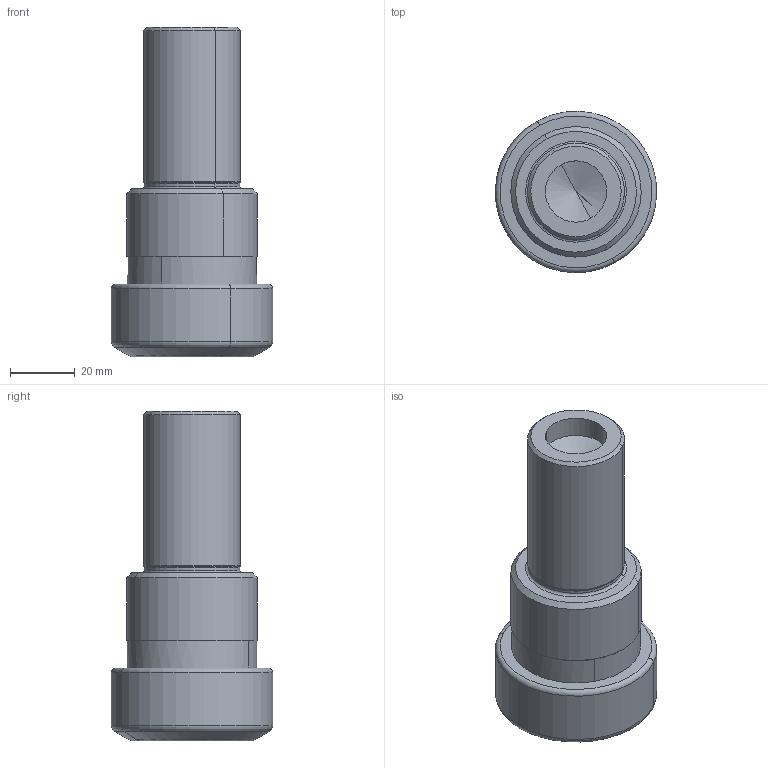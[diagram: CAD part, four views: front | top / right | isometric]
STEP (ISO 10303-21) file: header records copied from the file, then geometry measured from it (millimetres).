
FILE_DESCRIPTION(('CATIA V5 STEP','CAx-IF Rec.Pracs.--- Model Styling and Organization---1.2---2011-12-15'),'2;1');
FILE_NAME('\\nas01\drv1\utils\eitdev\rte\eit\transmagicconvert\db\out\635964833934988746\4517073-L-M.stp','2016-04-17T06:50:05+00:00',('none'),('none'),'CATIA Version 5 Release 21 SP 5 (IN-10)','CATIA V5 STEP AP214','none');
FILE_SCHEMA(('AUTOMOTIVE_DESIGN { 1 0 10303 214 1 1 1 1 }'));
Length unit declared in the file: millimetre
Products named in the file (1): ST 30X 50 ER32 F
Bounding box: 49.99 x 49.99 x 102 mm (x, y, z)
Volume: 82017.6 mm3; surface area: 19868.8 mm2
Topology: 1 solids, 1 shells, 50 faces, 108 edges, 60 vertices
Faces by surface type: cylinder 16, cone 14, torus 10, plane 6, revolution 4
Entity records: 1235 total; most frequent: CARTESIAN_POINT 251, ORIENTED_EDGE 208, DIRECTION 157, EDGE_CURVE 104, AXIS2_PLACEMENT_3D 94, CIRCLE 65, VERTEX_POINT 60, EDGE_LOOP 54
